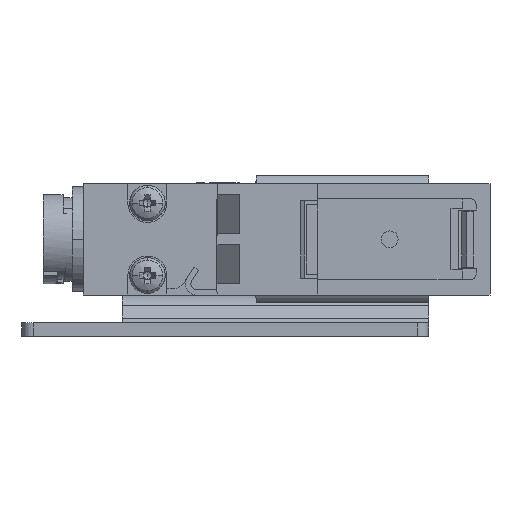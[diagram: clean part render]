
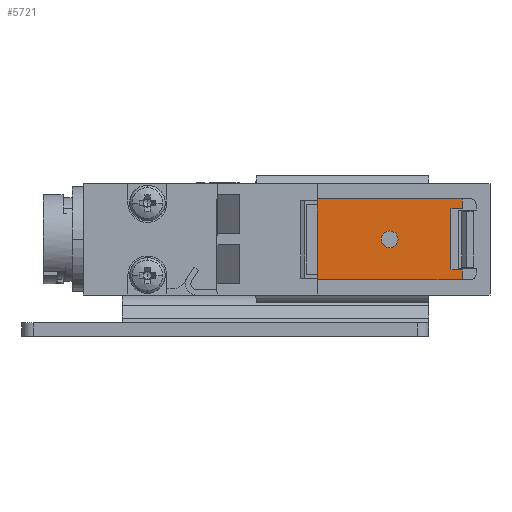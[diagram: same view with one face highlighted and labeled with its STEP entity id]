
A CAD part, left-side view. The second image highlights one B-rep face of the part: STEP entity #5721.
In plain terms, the highlighted planar face has unit normal (-1, 0, 0) as drawn and (0, 0, 1) by its records, which use the part's own axes.
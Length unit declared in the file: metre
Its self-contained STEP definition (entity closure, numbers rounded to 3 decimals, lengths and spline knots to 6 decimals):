
#79 = VERTEX_POINT ( 'NONE', #3690 ) ;
#351 = CARTESIAN_POINT ( 'NONE',  ( -0.003188, 0.0036, 0.006 ) ) ;
#489 = VECTOR ( 'NONE', #2165, 1. ) ;
#784 = VERTEX_POINT ( 'NONE', #4534 ) ;
#911 = DIRECTION ( 'NONE',  ( 1., 0., 0. ) ) ;
#1145 = CARTESIAN_POINT ( 'NONE',  ( 0., 0.0101, 0.006 ) ) ;
#1892 = VERTEX_POINT ( 'NONE', #17687 ) ;
#1902 = CIRCLE ( 'NONE', #9871, 0.00075 ) ;
#2037 = VERTEX_POINT ( 'NONE', #3327 ) ;
#2145 = EDGE_CURVE ( 'NONE', #1892, #7543, #4576, .T. ) ;
#2165 = DIRECTION ( 'NONE',  ( -1., 0., 0. ) ) ;
#2485 = VERTEX_POINT ( 'NONE', #12221 ) ;
#2548 = DIRECTION ( 'NONE',  ( 1., 0., 0. ) ) ;
#2592 = EDGE_LOOP ( 'NONE', ( #16093, #10020 ) ) ;
#2717 = VECTOR ( 'NONE', #17680, 1. ) ;
#3327 = CARTESIAN_POINT ( 'NONE',  ( -0.00275, 0.0036, 0.006 ) ) ;
#3652 = LINE ( 'NONE', #8752, #15168 ) ;
#3690 = CARTESIAN_POINT ( 'NONE',  ( 0.003625, 0.0036, 0.006 ) ) ;
#3738 = PLANE ( 'NONE',  #11798 ) ;
#3783 = CARTESIAN_POINT ( 'NONE',  ( 0.003188, 0.0036, 0.006 ) ) ;
#4027 = ORIENTED_EDGE ( 'NONE', *, *, #2145, .T. ) ;
#4066 = LINE ( 'NONE', #351, #7359 ) ;
#4526 = ORIENTED_EDGE ( 'NONE', *, *, #16702, .F. ) ;
#4534 = CARTESIAN_POINT ( 'NONE',  ( 0.003625, 0.0166, 0.006 ) ) ;
#4551 = DIRECTION ( 'NONE',  ( 1., 0., 0. ) ) ;
#4576 = LINE ( 'NONE', #6953, #11577 ) ;
#5176 = DIRECTION ( 'NONE',  ( -1., 0., 0. ) ) ;
#5504 = EDGE_CURVE ( 'NONE', #2037, #2485, #17426, .T. ) ;
#5534 = ORIENTED_EDGE ( 'NONE', *, *, #5504, .T. ) ;
#5721 = ADVANCED_FACE ( 'NONE', ( #10380, #17625 ), #3738, .F. ) ;
#5751 = CARTESIAN_POINT ( 'NONE',  ( 0.00275, 0.0036, 0.006 ) ) ;
#5787 = ORIENTED_EDGE ( 'NONE', *, *, #12049, .F. ) ;
#6953 = CARTESIAN_POINT ( 'NONE',  ( 0.00275, 0.0041, 0.006 ) ) ;
#6956 = LINE ( 'NONE', #8292, #10672 ) ;
#7123 = DIRECTION ( 'NONE',  ( 0., -1., 0. ) ) ;
#7359 = VECTOR ( 'NONE', #4551, 1. ) ;
#7543 = VERTEX_POINT ( 'NONE', #5751 ) ;
#7691 = LINE ( 'NONE', #9277, #15022 ) ;
#8135 = DIRECTION ( 'NONE',  ( 0., 0., 1. ) ) ;
#8292 = CARTESIAN_POINT ( 'NONE',  ( 0.003625, 0.0101, 0.006 ) ) ;
#8721 = CARTESIAN_POINT ( 'NONE',  ( -0.003625, 0.0036, 0.006 ) ) ;
#8752 = CARTESIAN_POINT ( 'NONE',  ( -0.003625, 0.0101, 0.006 ) ) ;
#8917 = EDGE_CURVE ( 'NONE', #1892, #2485, #12479, .T. ) ;
#8937 = VECTOR ( 'NONE', #12157, 1. ) ;
#9277 = CARTESIAN_POINT ( 'NONE',  ( 0., 0.0166, 0.006 ) ) ;
#9635 = EDGE_CURVE ( 'NONE', #12587, #784, #7691, .T. ) ;
#9871 = AXIS2_PLACEMENT_3D ( 'NONE', #1145, #10918, #2548 ) ;
#10020 = ORIENTED_EDGE ( 'NONE', *, *, #12641, .F. ) ;
#10380 = FACE_BOUND ( 'NONE', #2592, .T. ) ;
#10413 = ORIENTED_EDGE ( 'NONE', *, *, #12991, .T. ) ;
#10517 = CARTESIAN_POINT ( 'NONE',  ( 0., 0.0046, 0.006 ) ) ;
#10672 = VECTOR ( 'NONE', #11090, 1. ) ;
#10918 = DIRECTION ( 'NONE',  ( 0., 0., 1. ) ) ;
#10972 = CARTESIAN_POINT ( 'NONE',  ( 0.00075, 0.0101, 0.006 ) ) ;
#11090 = DIRECTION ( 'NONE',  ( 0., -1., 0. ) ) ;
#11577 = VECTOR ( 'NONE', #7123, 1. ) ;
#11687 = EDGE_CURVE ( 'NONE', #7543, #79, #15803, .T. ) ;
#11798 = AXIS2_PLACEMENT_3D ( 'NONE', #12112, #13470, #5176 ) ;
#12049 = EDGE_CURVE ( 'NONE', #16878, #12587, #3652, .T. ) ;
#12112 = CARTESIAN_POINT ( 'NONE',  ( 0.003625, 0.0036, 0.006 ) ) ;
#12157 = DIRECTION ( 'NONE',  ( 1., 0., 0. ) ) ;
#12221 = CARTESIAN_POINT ( 'NONE',  ( -0.00275, 0.0046, 0.006 ) ) ;
#12479 = LINE ( 'NONE', #10517, #489 ) ;
#12587 = VERTEX_POINT ( 'NONE', #13484 ) ;
#12641 = EDGE_CURVE ( 'NONE', #15187, #12679, #1902, .T. ) ;
#12679 = VERTEX_POINT ( 'NONE', #10972 ) ;
#12991 = EDGE_CURVE ( 'NONE', #16878, #2037, #4066, .T. ) ;
#13263 = AXIS2_PLACEMENT_3D ( 'NONE', #16350, #8135, #17710 ) ;
#13470 = DIRECTION ( 'NONE',  ( 0., 0., -1. ) ) ;
#13484 = CARTESIAN_POINT ( 'NONE',  ( -0.003625, 0.0166, 0.006 ) ) ;
#13918 = ORIENTED_EDGE ( 'NONE', *, *, #9635, .F. ) ;
#14042 = EDGE_LOOP ( 'NONE', ( #5534, #17419, #4027, #17381, #4526, #13918, #5787, #10413 ) ) ;
#14284 = DIRECTION ( 'NONE',  ( 0., 1., 0. ) ) ;
#15022 = VECTOR ( 'NONE', #911, 1. ) ;
#15168 = VECTOR ( 'NONE', #14284, 1. ) ;
#15187 = VERTEX_POINT ( 'NONE', #17863 ) ;
#15803 = LINE ( 'NONE', #3783, #8937 ) ;
#16093 = ORIENTED_EDGE ( 'NONE', *, *, #16647, .F. ) ;
#16350 = CARTESIAN_POINT ( 'NONE',  ( 0., 0.0101, 0.006 ) ) ;
#16647 = EDGE_CURVE ( 'NONE', #12679, #15187, #17659, .T. ) ;
#16702 = EDGE_CURVE ( 'NONE', #784, #79, #6956, .T. ) ;
#16878 = VERTEX_POINT ( 'NONE', #8721 ) ;
#17381 = ORIENTED_EDGE ( 'NONE', *, *, #11687, .T. ) ;
#17419 = ORIENTED_EDGE ( 'NONE', *, *, #8917, .F. ) ;
#17426 = LINE ( 'NONE', #17769, #2717 ) ;
#17625 = FACE_OUTER_BOUND ( 'NONE', #14042, .T. ) ;
#17659 = CIRCLE ( 'NONE', #13263, 0.00075 ) ;
#17680 = DIRECTION ( 'NONE',  ( 0., 1., 0. ) ) ;
#17687 = CARTESIAN_POINT ( 'NONE',  ( 0.00275, 0.0046, 0.006 ) ) ;
#17710 = DIRECTION ( 'NONE',  ( 1., 0., 0. ) ) ;
#17769 = CARTESIAN_POINT ( 'NONE',  ( -0.00275, 0.0041, 0.006 ) ) ;
#17863 = CARTESIAN_POINT ( 'NONE',  ( -0.00075, 0.0101, 0.006 ) ) ;
